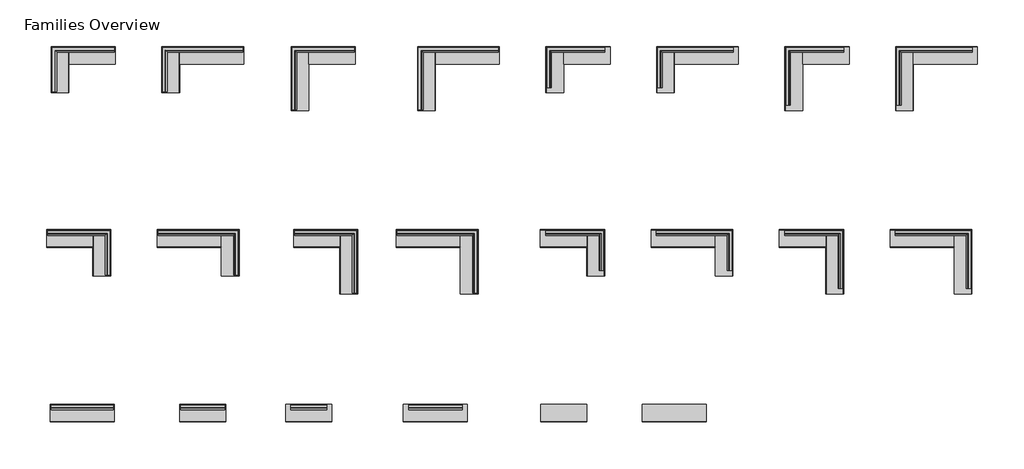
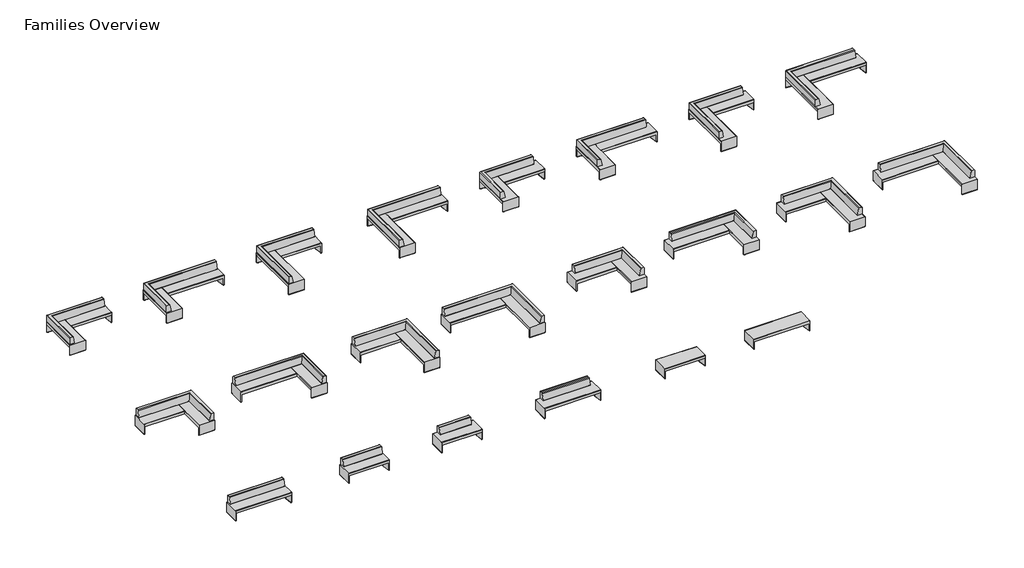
# One storey: 22 furniture elements.
"""IFC4 building model written with IfcOpenShell, lengths in millimetres."""

from ifc_helpers import new_model, si_unit, origin, place, context, project, spatial, transform, mapped, element, save
from components import furniture_0e0bb3f7, furniture_526abeda, furniture_ffd907bb, furniture_73e455b3, furniture_92f7da50, furniture_42e957c1, furniture_9dbe1792, furniture_f36d45e6, furniture_60405dff, furniture_85340afa, furniture_34c33783, furniture_43bb639a, furniture_684f7a78, furniture_5f205269, furniture_3574d05f, furniture_ff952edb, with_back_1_5in_offset_69_75w_d7341e1c, with_back_1_5in_offset_96_5w_83d29b02, with_back_8in_offset_69_75w_f23b3ad1, with_back_8in_offset_96_5w_34442c8c, without_back_69_75w_5d1551a5, without_back_96_5w_5c585f7c

model = new_model("IFC4")

# Units and contexts
model_context = context("Model", 3, world=origin())
ifc_project = project(units=[si_unit("LENGTHUNIT", "METRE", prefix="MILLI")], contexts=[model_context])

# Site, building, storey
site = spatial("IfcSite", under=ifc_project)
building = spatial("IfcBuilding", under=site)
storey = spatial("IfcBuildingStorey", under=building, Name="Families Overview", Elevation=0.0)

# Furniture
placement = place(None, origin())
furniture_shape = furniture_0e0bb3f7(model_context)
element("IfcFurniture", 1, ObjectType="Steelcase Coalesse - Together  - Seating - Bench - Left Corner : 8in Back Offset - 69.75D x 96.5W", at=placement, inside=storey, context=model_context, shape_type="MappedRepresentation", body=[
    mapped(furniture_shape, transform((7993.5903105, 8717.218776, 0.0), x_axis=(1.0, 0.0, 0.0), y_axis=(0.0, 1.0, 0.0), z_axis=(0.0, 0.0, 1.0))),
])
furniture_2_shape = furniture_526abeda(model_context)
element("IfcFurniture", 2, ObjectType="Steelcase Coalesse - Together  - Seating - Bench - Left Corner : 8in Back Offset - 96.5D x 96.5W", at=placement, inside=storey, context=model_context, shape_type="MappedRepresentation", body=[
    mapped(furniture_2_shape, transform((17131.2403105, 8717.218776, 0.0), x_axis=(1.0, 0.0, 0.0), y_axis=(0.0, 1.0, 0.0), z_axis=(0.0, 0.0, 1.0))),
])
furniture_3_shape = furniture_ffd907bb(model_context)
element("IfcFurniture", 3, ObjectType="Steelcase Coalesse - Together  - Seating - Bench - Left Corner : 8in Back Offset - 69.75D x 123.25W", at=placement, inside=storey, context=model_context, shape_type="MappedRepresentation", body=[
    mapped(furniture_3_shape, transform((12222.6903105, 8717.218776, 0.0), x_axis=(1.0, 0.0, 0.0), y_axis=(0.0, 1.0, 0.0), z_axis=(0.0, 0.0, 1.0))),
])
furniture_4_shape = furniture_73e455b3(model_context)
element("IfcFurniture", 4, ObjectType="Steelcase Coalesse - Together  - Seating - Bench - Left Corner : 8in Back Offset - 96.5D x 123.25W", at=placement, inside=storey, context=model_context, shape_type="MappedRepresentation", body=[
    mapped(furniture_4_shape, transform((21360.3403105, 8717.218776, 0.0), x_axis=(1.0, 0.0, 0.0), y_axis=(0.0, 1.0, 0.0), z_axis=(0.0, 0.0, 1.0))),
])
furniture_5_shape = furniture_92f7da50(model_context)
element("IfcFurniture", 5, ObjectType="Steelcase Coalesse - Together  - Seating - Bench - Left Corner : 1.5in Back Offset - 69.75D x 123.25W", at=placement, inside=storey, context=model_context, shape_type="MappedRepresentation", body=[
    mapped(furniture_5_shape, transform((-6693.9596895, 8717.218776, 0.0), x_axis=(1.0, 0.0, 0.0), y_axis=(0.0, 1.0, 0.0), z_axis=(0.0, 0.0, 1.0))),
])
furniture_6_shape = furniture_42e957c1(model_context)
element("IfcFurniture", 6, ObjectType="Steelcase Coalesse - Together  - Seating - Bench - Left Corner : 1.5in Back Offset - 69.75D x 96.5W", at=placement, inside=storey, context=model_context, shape_type="MappedRepresentation", body=[
    mapped(furniture_6_shape, transform((-10923.0596895, 8717.218776, 0.0), x_axis=(1.0, 0.0, 0.0), y_axis=(0.0, 1.0, 0.0), z_axis=(0.0, 0.0, 1.0))),
])
furniture_7_shape = furniture_9dbe1792(model_context)
element("IfcFurniture", 7, ObjectType="Steelcase Coalesse - Together  - Seating - Bench - Left Corner : 1.5in Back Offset - 96.5D x 123.25W", at=placement, inside=storey, context=model_context, shape_type="MappedRepresentation", body=[
    mapped(furniture_7_shape, transform((3085.0403105, 8717.218776, 0.0), x_axis=(1.0, 0.0, 0.0), y_axis=(0.0, 1.0, 0.0), z_axis=(0.0, 0.0, 1.0))),
])
furniture_8_shape = furniture_f36d45e6(model_context)
element("IfcFurniture", 8, ObjectType="Steelcase Coalesse - Together  - Seating - Bench - Left Corner : 1.5in Back Offset - 96.5D x 96.5W", at=placement, inside=storey, context=model_context, shape_type="MappedRepresentation", body=[
    mapped(furniture_8_shape, transform((-1753.6596895, 8717.218776, 0.0), x_axis=(1.0, 0.0, 0.0), y_axis=(0.0, 1.0, 0.0), z_axis=(0.0, 0.0, 1.0))),
])
furniture_9_shape = furniture_60405dff(model_context)
element("IfcFurniture", 9, ObjectType="Steelcase Coalesse - Together - Seating - Bench - Right Corner : 8in Back Offset - 69.75D x 96.5W", at=placement, inside=storey, context=model_context, shape_type="MappedRepresentation", body=[
    mapped(furniture_9_shape, transform((8781.0332407, -3063.7483053, 0.0), x_axis=(1.0, 0.0, 0.0), y_axis=(0.0, 1.0, 0.0), z_axis=(0.0, 0.0, 1.0))),
])
furniture_10_shape = furniture_85340afa(model_context)
element("IfcFurniture", 10, ObjectType="Steelcase Coalesse - Together - Seating - Bench - Right Corner : 8in Back Offset - 96.5D x 96.5W", at=placement, inside=storey, context=model_context, shape_type="MappedRepresentation", body=[
    mapped(furniture_10_shape, transform((17918.6832407, -3063.7483053, 0.0), x_axis=(1.0, 0.0, 0.0), y_axis=(0.0, 1.0, 0.0), z_axis=(0.0, 0.0, 1.0))),
])
furniture_11_shape = furniture_34c33783(model_context)
element("IfcFurniture", 11, ObjectType="Steelcase Coalesse - Together - Seating - Bench - Right Corner : 8in Back Offset - 69.75D x 123.25W", at=placement, inside=storey, context=model_context, shape_type="MappedRepresentation", body=[
    mapped(furniture_11_shape, transform((13689.5832407, -3063.7483053, 0.0), x_axis=(1.0, 0.0, 0.0), y_axis=(0.0, 1.0, 0.0), z_axis=(0.0, 0.0, 1.0))),
])
furniture_12_shape = furniture_43bb639a(model_context)
element("IfcFurniture", 12, ObjectType="Steelcase Coalesse - Together - Seating - Bench - Right Corner : 8in Back Offset - 96.5D x 123.25W", at=placement, inside=storey, context=model_context, shape_type="MappedRepresentation", body=[
    mapped(furniture_12_shape, transform((22827.2332407, -3063.7483053, 0.0), x_axis=(1.0, 0.0, 0.0), y_axis=(0.0, 1.0, 0.0), z_axis=(0.0, 0.0, 1.0))),
])
furniture_13_shape = furniture_684f7a78(model_context)
element("IfcFurniture", 13, ObjectType="Steelcase Coalesse - Together - Seating - Bench - Right Corner : 1.5in Back Offset - 69.75D x 123.25W", at=placement, inside=storey, context=model_context, shape_type="MappedRepresentation", body=[
    mapped(furniture_13_shape, transform((-5195.3167593, -3063.7483053, 0.0), x_axis=(1.0, 0.0, 0.0), y_axis=(0.0, 1.0, 0.0), z_axis=(0.0, 0.0, 1.0))),
])
furniture_14_shape = furniture_5f205269(model_context)
element("IfcFurniture", 14, ObjectType="Steelcase Coalesse - Together - Seating - Bench - Right Corner : 1.5in Back Offset - 69.75D x 96.5W", at=placement, inside=storey, context=model_context, shape_type="MappedRepresentation", body=[
    mapped(furniture_14_shape, transform((-10103.8667593, -3063.7483053, 0.0), x_axis=(1.0, 0.0, 0.0), y_axis=(0.0, 1.0, 0.0), z_axis=(0.0, 0.0, 1.0))),
])
furniture_15_shape = furniture_3574d05f(model_context)
element("IfcFurniture", 15, ObjectType="Steelcase Coalesse - Together - Seating - Bench - Right Corner : 1.5in Back Offset - 96.5D x 123.25W", at=placement, inside=storey, context=model_context, shape_type="MappedRepresentation", body=[
    mapped(furniture_15_shape, transform((3942.3332407, -3063.7483053, 0.0), x_axis=(1.0, 0.0, 0.0), y_axis=(0.0, 1.0, 0.0), z_axis=(0.0, 0.0, 1.0))),
])
furniture_16_shape = furniture_ff952edb(model_context)
element("IfcFurniture", 16, ObjectType="Steelcase Coalesse - Together - Seating - Bench - Right Corner : 1.5in Back Offset - 96.5D x 96.5W", at=placement, inside=storey, context=model_context, shape_type="MappedRepresentation", body=[
    mapped(furniture_16_shape, transform((-661.4167593, -3063.7483053, 0.0), x_axis=(1.0, 0.0, 0.0), y_axis=(0.0, 1.0, 0.0), z_axis=(0.0, 0.0, 1.0))),
])
with_back_1_5in_offset_69_75w_shape = with_back_1_5in_offset_69_75w_d7341e1c(model_context)
element("IfcFurniture", 17, ObjectType="Steelcase Coalesse - Together- Seating - Bench - Straight : With Back - 1.5in Offset - 69.75W", at=placement, inside=storey, context=model_context, shape_type="MappedRepresentation", body=[
    mapped(with_back_1_5in_offset_69_75w_shape, transform((-5136.0300394, -4974.5552432, 0.0), x_axis=(1.0, 0.0, 0.0), y_axis=(0.0, 1.0, 0.0), z_axis=(0.0, 0.0, 1.0))),
])
with_back_1_5in_offset_96_5w_shape = with_back_1_5in_offset_96_5w_83d29b02(model_context)
element("IfcFurniture", 18, ObjectType="Steelcase Coalesse - Together- Seating - Bench - Straight : With Back - 1.5in Offset - 96.5W", at=placement, inside=storey, context=model_context, shape_type="MappedRepresentation", body=[
    mapped(with_back_1_5in_offset_96_5w_shape, transform((-9740.432098, -4974.5552432, 0.0), x_axis=(1.0, 0.0, 0.0), y_axis=(0.0, 1.0, 0.0), z_axis=(0.0, 0.0, 1.0))),
])
with_back_8in_offset_69_75w_shape = with_back_8in_offset_69_75w_f23b3ad1(model_context)
element("IfcFurniture", 19, ObjectType="Steelcase Coalesse - Together- Seating - Bench - Straight : With Back - 8in Offset - 69.75W", at=placement, inside=storey, context=model_context, shape_type="MappedRepresentation", body=[
    mapped(with_back_8in_offset_69_75w_shape, transform((-1079.032098, -4974.5552432, 0.0), x_axis=(1.0, 0.0, 0.0), y_axis=(0.0, 1.0, 0.0), z_axis=(0.0, 0.0, 1.0))),
])
with_back_8in_offset_96_5w_shape = with_back_8in_offset_96_5w_34442c8c(model_context)
element("IfcFurniture", 20, ObjectType="Steelcase Coalesse - Together- Seating - Bench - Straight : With Back - 8in Offset - 96.5W", at=placement, inside=storey, context=model_context, shape_type="MappedRepresentation", body=[
    mapped(with_back_8in_offset_96_5w_shape, transform((3759.667902, -4974.5552432, 0.0), x_axis=(1.0, 0.0, 0.0), y_axis=(0.0, 1.0, 0.0), z_axis=(0.0, 0.0, 1.0))),
])
without_back_69_75w_shape = without_back_69_75w_5d1551a5(model_context)
element("IfcFurniture", 21, ObjectType="Steelcase Coalesse - Together- Seating - Bench - Straight : Without Back - 69.75W", at=placement, inside=storey, context=model_context, shape_type="MappedRepresentation", body=[
    mapped(without_back_69_75w_shape, transform((8668.217902, -4974.5552432, 0.0), x_axis=(1.0, 0.0, 0.0), y_axis=(0.0, 1.0, 0.0), z_axis=(0.0, 0.0, 1.0))),
])
without_back_96_5w_shape = without_back_96_5w_5c585f7c(model_context)
element("IfcFurniture", 22, ObjectType="Steelcase Coalesse - Together- Seating - Bench - Straight : Without Back - 96.5W", at=placement, inside=storey, context=model_context, shape_type="MappedRepresentation", body=[
    mapped(without_back_96_5w_shape, transform((12897.317902, -4974.5552432, 0.0), x_axis=(1.0, 0.0, 0.0), y_axis=(0.0, 1.0, 0.0), z_axis=(0.0, 0.0, 1.0))),
])

save(model, "model.ifc")
